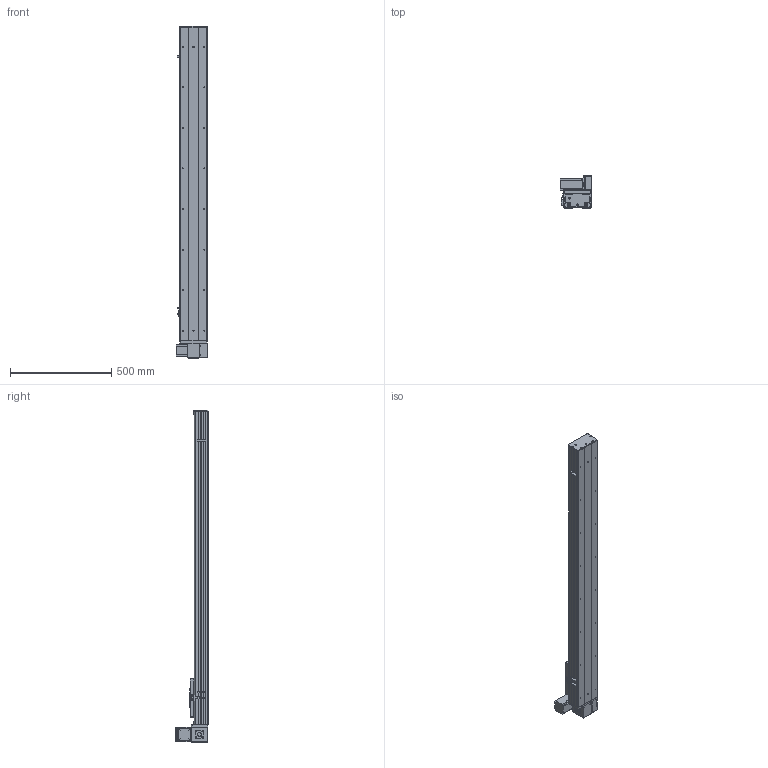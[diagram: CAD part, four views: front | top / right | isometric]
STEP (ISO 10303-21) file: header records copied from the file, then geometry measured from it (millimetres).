
FILE_DESCRIPTION (( 'STEP AP203' ), '1' );
FILE_NAME ('Y135CB-D90-S1250-UL-P400W.STEP', '2020-02-18T07:28:15', ( '微软用户' ), ( '微软中国' ), 'SwSTEP 2.0', 'SolidWorks 2017', '' );
FILE_SCHEMA (( 'CONFIG_CONTROL_DESIGN' ));
Length unit declared in the file: millimetre
Products named in the file (18): 5C--俋欶; C-雄赽釱--; 0B-萇儂楊擘啣; Y10B-耜蚾蟀諉啣----; Y135CB-耜裔; san松下电机400不带刹车----; 00B-俋欶BM--; 135CB---遴掛极.-; 5CB --掛极耜裔啣-; Y10B--々湍喘謫眊--666; 35CB---喘謫眊楊擘啣; C-詩湍揤踡え-陔; Y135CB-D90-S1250-UL-P400W; 0B-埴倛裔啣; 135CB--詩湍-CE; 0B-源倛裔啣; Y100-135俋离換覜ん--; Y135C-陔俋离換覜結え-
Assembly tree (21 placements, depth 2):
  Y135CB-D90-S1250-UL-P400W
    Y135CB-耜裔
    135CB---遴掛极.-
    35CB---喘謫眊楊擘啣
    0B-埴倛裔啣
    0B-源倛裔啣
    0B-萇儂楊擘啣
    san松下电机400不带刹车----
    5CB --掛极耜裔啣-  x2
    C-詩湍揤踡え-陔  x2
    135CB--詩湍-CE
    Y100-135俋离換覜ん--  x3
    Y135C-陔俋离換覜結え-
    5C--俋欶
    C-雄赽釱--
    Y10B-耜蚾蟀諉啣----
    00B-俋欶BM--
    Y10B--々湍喘謫眊--666
Bounding box: 157 x 158.7 x 1638 mm (x, y, z)
Volume: 5035737.4 mm3; surface area: 1976824.6 mm2
Topology: 21 solids, 21 shells, 949 faces, 2545 edges, 1686 vertices
Faces by surface type: cylinder 477, plane 456, cone 16
Entity records: 29551 total; most frequent: DIRECTION 4909, CARTESIAN_POINT 4856, ORIENTED_EDGE 4566, EDGE_CURVE 2283, AXIS2_PLACEMENT_3D 1791, VERTEX_POINT 1514, LINE 1327, VECTOR 1327
